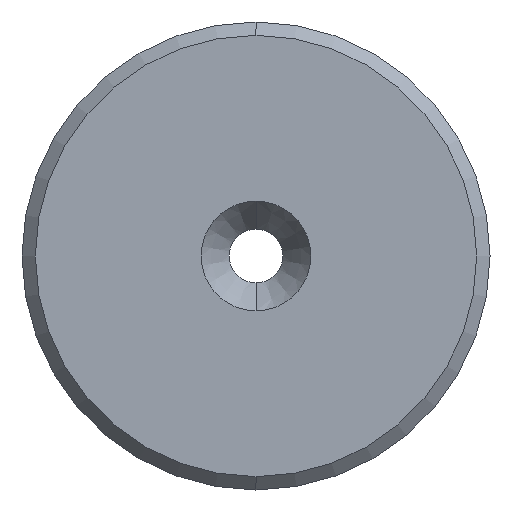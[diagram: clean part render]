
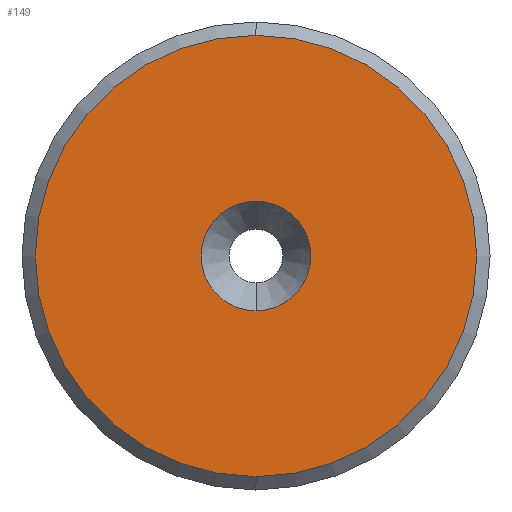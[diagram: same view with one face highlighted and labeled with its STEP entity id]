
A CAD part, left-side view. The second image highlights one B-rep face of the part: STEP entity #149.
In plain terms, the highlighted planar face has unit normal (-1, 0, 0).
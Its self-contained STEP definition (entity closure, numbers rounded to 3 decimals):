
#9 = AXIS2_PLACEMENT_3D ( 'NONE', #436, #16, #15 ) ;
#15 = DIRECTION ( 'NONE',  ( 0., 0., 1. ) ) ;
#16 = DIRECTION ( 'NONE',  ( -1., 0., 0. ) ) ;
#31 = AXIS2_PLACEMENT_3D ( 'NONE', #277, #126, #308 ) ;
#35 = DIRECTION ( 'NONE',  ( -1., 0., 0. ) ) ;
#39 = FACE_BOUND ( 'NONE', #143, .T. ) ;
#65 = AXIS2_PLACEMENT_3D ( 'NONE', #255, #35, #295 ) ;
#70 = ORIENTED_EDGE ( 'NONE', *, *, #486, .T. ) ;
#73 = CARTESIAN_POINT ( 'NONE',  ( 0., 0., 4.101 ) ) ;
#92 = EDGE_LOOP ( 'NONE', ( #70, #117 ) ) ;
#114 = CARTESIAN_POINT ( 'NONE',  ( 0., 0., 0. ) ) ;
#117 = ORIENTED_EDGE ( 'NONE', *, *, #374, .T. ) ;
#119 = DIRECTION ( 'NONE',  ( 0., 0., 1. ) ) ;
#126 = DIRECTION ( 'NONE',  ( 1., 0., 0. ) ) ;
#129 = DIRECTION ( 'NONE',  ( 0., 0., -1. ) ) ;
#143 = EDGE_LOOP ( 'NONE', ( #181, #339 ) ) ;
#149 = ADVANCED_FACE ( 'NONE', ( #415, #39 ), #360, .F. ) ;
#165 = VERTEX_POINT ( 'NONE', #310 ) ;
#170 = EDGE_CURVE ( 'NONE', #370, #351, #405, .T. ) ;
#181 = ORIENTED_EDGE ( 'NONE', *, *, #240, .F. ) ;
#217 = CIRCLE ( 'NONE', #65, 16.5 ) ;
#230 = AXIS2_PLACEMENT_3D ( 'NONE', #114, #355, #129 ) ;
#240 = EDGE_CURVE ( 'NONE', #351, #370, #345, .T. ) ;
#246 = CIRCLE ( 'NONE', #230, 16.5 ) ;
#255 = CARTESIAN_POINT ( 'NONE',  ( 0., 0., 0. ) ) ;
#277 = CARTESIAN_POINT ( 'NONE',  ( 0., 4.101, 0. ) ) ;
#295 = DIRECTION ( 'NONE',  ( 0., 0., -1. ) ) ;
#308 = DIRECTION ( 'NONE',  ( 0., 0., -1. ) ) ;
#310 = CARTESIAN_POINT ( 'NONE',  ( 0., 0., 16.5 ) ) ;
#323 = CARTESIAN_POINT ( 'NONE',  ( 0., 0., -4.101 ) ) ;
#339 = ORIENTED_EDGE ( 'NONE', *, *, #170, .F. ) ;
#345 = CIRCLE ( 'NONE', #412, 4.101 ) ;
#347 = CARTESIAN_POINT ( 'NONE',  ( 0., 0., 0. ) ) ;
#351 = VERTEX_POINT ( 'NONE', #73 ) ;
#355 = DIRECTION ( 'NONE',  ( -1., 0., 0. ) ) ;
#360 = PLANE ( 'NONE',  #31 ) ;
#370 = VERTEX_POINT ( 'NONE', #323 ) ;
#374 = EDGE_CURVE ( 'NONE', #165, #375, #217, .T. ) ;
#375 = VERTEX_POINT ( 'NONE', #378 ) ;
#378 = CARTESIAN_POINT ( 'NONE',  ( 0., 0., -16.5 ) ) ;
#405 = CIRCLE ( 'NONE', #9, 4.101 ) ;
#412 = AXIS2_PLACEMENT_3D ( 'NONE', #347, #473, #119 ) ;
#415 = FACE_OUTER_BOUND ( 'NONE', #92, .T. ) ;
#436 = CARTESIAN_POINT ( 'NONE',  ( 0., 0., 0. ) ) ;
#473 = DIRECTION ( 'NONE',  ( -1., 0., 0. ) ) ;
#486 = EDGE_CURVE ( 'NONE', #375, #165, #246, .T. ) ;
